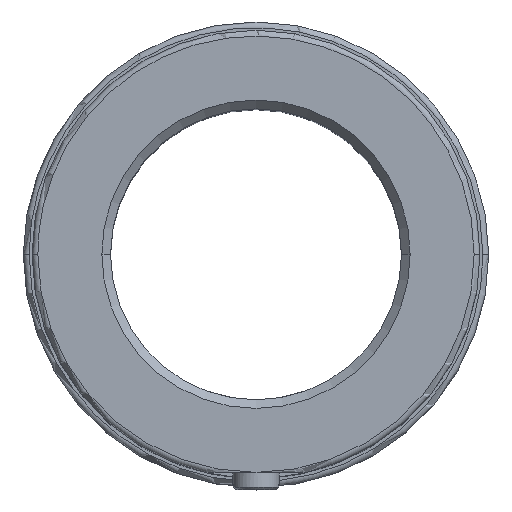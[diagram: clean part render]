
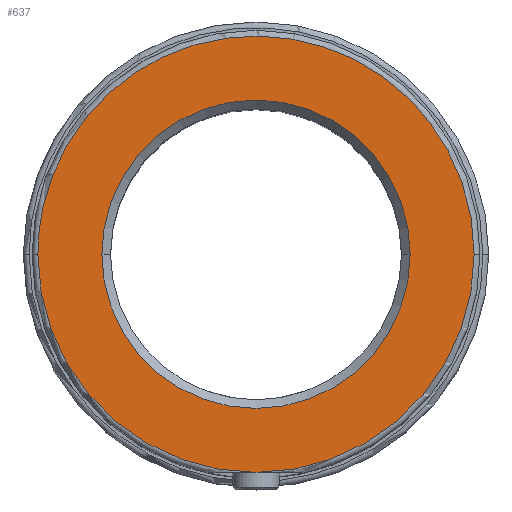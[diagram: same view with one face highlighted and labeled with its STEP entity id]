
A CAD part, top view. The second image highlights one B-rep face of the part: STEP entity #637.
In plain terms, the highlighted planar face has unit normal (0, 0, 1).
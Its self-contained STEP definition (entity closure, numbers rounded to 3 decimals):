
#279=CARTESIAN_POINT('Vertex',(0.,-37.5,50.)) ;
#401=CARTESIAN_POINT('Vertex',(-26.5,0.,50.)) ;
#404=CARTESIAN_POINT('Axis2P3D Location',(0.,0.,50.)) ;
#408=CARTESIAN_POINT('Vertex',(26.5,0.,50.)) ;
#496=CARTESIAN_POINT('Vertex',(37.5,0.,50.)) ;
#499=CARTESIAN_POINT('Axis2P3D Location',(0.,0.,50.)) ;
#520=CARTESIAN_POINT('Vertex',(-37.5,0.,50.)) ;
#523=CARTESIAN_POINT('Axis2P3D Location',(0.,0.,50.)) ;
#585=CARTESIAN_POINT('Axis2P3D Location',(0.,0.,50.)) ;
#597=CARTESIAN_POINT('Axis2P3D Location',(-26.5,0.,50.)) ;
#603=CARTESIAN_POINT('Control Point',(37.5,0.,50.)) ;
#604=CARTESIAN_POINT('Control Point',(37.5,3.6,50.)) ;
#605=CARTESIAN_POINT('Control Point',(37.068,7.2,50.)) ;
#606=CARTESIAN_POINT('Control Point',(36.204,10.731,50.)) ;
#607=CARTESIAN_POINT('Control Point',(33.645,17.516,50.)) ;
#608=CARTESIAN_POINT('Control Point',(29.554,23.504,50.)) ;
#609=CARTESIAN_POINT('Control Point',(27.157,26.236,50.)) ;
#610=CARTESIAN_POINT('Control Point',(21.755,31.074,50.)) ;
#611=CARTESIAN_POINT('Control Point',(15.361,34.495,50.)) ;
#612=CARTESIAN_POINT('Control Point',(11.973,35.812,50.)) ;
#613=CARTESIAN_POINT('Control Point',(4.947,37.608,50.)) ;
#614=CARTESIAN_POINT('Control Point',(-2.304,37.69,50.)) ;
#615=CARTESIAN_POINT('Control Point',(-5.917,37.294,50.)) ;
#616=CARTESIAN_POINT('Control Point',(-12.978,35.643,50.)) ;
#617=CARTESIAN_POINT('Control Point',(-19.448,32.367,50.)) ;
#618=CARTESIAN_POINT('Control Point',(-22.47,30.347,50.)) ;
#619=CARTESIAN_POINT('Control Point',(-27.971,25.622,50.)) ;
#620=CARTESIAN_POINT('Control Point',(-32.197,19.729,50.)) ;
#621=CARTESIAN_POINT('Control Point',(-33.945,16.541,50.)) ;
#622=CARTESIAN_POINT('Control Point',(-36.028,11.341,50.)) ;
#623=CARTESIAN_POINT('Control Point',(-37.115,5.875,50.)) ;
#624=CARTESIAN_POINT('Control Point',(-37.372,3.924,50.)) ;
#625=CARTESIAN_POINT('Control Point',(-37.5,1.962,50.)) ;
#626=CARTESIAN_POINT('Control Point',(-37.5,0.,50.)) ;
#405=DIRECTION('Axis2P3D Direction',(0.,-0.,1.)) ;
#500=DIRECTION('Axis2P3D Direction',(0.,-0.,1.)) ;
#524=DIRECTION('Axis2P3D Direction',(0.,-0.,1.)) ;
#586=DIRECTION('Axis2P3D Direction',(0.,-0.,1.)) ;
#598=DIRECTION('Axis2P3D Direction',(0.,0.,-1.)) ;
#599=DIRECTION('Axis2P3D XDirection',(-1.,0.,0.)) ;
#406=AXIS2_PLACEMENT_3D('Circle Axis2P3D',#404,#405,$) ;
#501=AXIS2_PLACEMENT_3D('Circle Axis2P3D',#499,#500,$) ;
#525=AXIS2_PLACEMENT_3D('Circle Axis2P3D',#523,#524,$) ;
#587=AXIS2_PLACEMENT_3D('Circle Axis2P3D',#585,#586,$) ;
#600=AXIS2_PLACEMENT_3D('Plane Axis2P3D',#597,#598,#599) ;
#629=ORIENTED_EDGE('',*,*,#503,.T.) ;
#630=ORIENTED_EDGE('',*,*,#627,.T.) ;
#631=ORIENTED_EDGE('',*,*,#527,.T.) ;
#634=ORIENTED_EDGE('',*,*,#589,.F.) ;
#635=ORIENTED_EDGE('',*,*,#410,.F.) ;
#636=FACE_BOUND('',#633,.T.) ;
#637=ADVANCED_FACE('744-50 sol1',(#632,#636),#601,.F.) ;
#602=B_SPLINE_CURVE_WITH_KNOTS('',5,(#603,#604,#605,#606,#607,#608,#609,#610,#611,#612,#613,#614,#615,#616,#617,#618,#619,#620,#621,#622,#623,#624,#625,#626),.UNSPECIFIED.,.F.,.U.,(6,3,3,3,3,3,3,6),(0.,25.456,50.911,76.367,101.822,127.278,152.734,166.607),.UNSPECIFIED.) ;
#407=CIRCLE('generated circle',#406,26.5) ;
#502=CIRCLE('generated circle',#501,37.5) ;
#526=CIRCLE('generated circle',#525,37.5) ;
#588=CIRCLE('generated circle',#587,26.5) ;
#410=EDGE_CURVE('',#402,#409,#407,.T.) ;
#503=EDGE_CURVE('',#280,#497,#502,.T.) ;
#527=EDGE_CURVE('',#521,#280,#526,.T.) ;
#589=EDGE_CURVE('',#409,#402,#588,.T.) ;
#627=EDGE_CURVE('',#497,#521,#602,.T.) ;
#628=EDGE_LOOP('',(#629,#630,#631)) ;
#633=EDGE_LOOP('',(#634,#635)) ;
#632=FACE_OUTER_BOUND('',#628,.T.) ;
#601=PLANE('Plane',#600) ;
#280=VERTEX_POINT('',#279) ;
#402=VERTEX_POINT('',#401) ;
#409=VERTEX_POINT('',#408) ;
#497=VERTEX_POINT('',#496) ;
#521=VERTEX_POINT('',#520) ;
